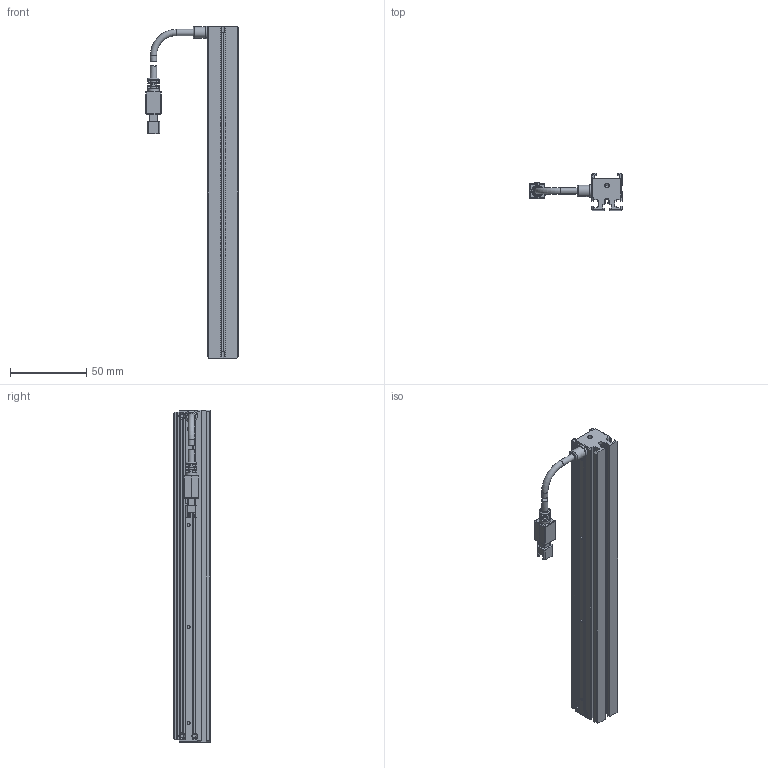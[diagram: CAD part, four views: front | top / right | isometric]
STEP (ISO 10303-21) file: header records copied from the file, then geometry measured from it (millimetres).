
FILE_DESCRIPTION (( 'STEP AP203' ), '1' );
FILE_NAME ('OPT-ILI21820-IR-V1.0尨砩芞.STEP', '2025-01-18T07:57:02', ( '' ), ( '' ), 'SwSTEP 2.0', 'SolidWorks 2016', '' );
FILE_SCHEMA (( 'CONFIG_CONTROL_DESIGN' ));
Length unit declared in the file: millimetre
Products named in the file (1): OPT-ILI21820-IR-V1.0尨砩芞
Bounding box: 60.6 x 24 x 218 mm (x, y, z)
Volume: 78584.5 mm3; surface area: 38538.5 mm2
Topology: 5 solids, 13 shells, 574 faces, 1506 edges, 970 vertices
Faces by surface type: plane 383, cylinder 133, cone 28, bspline 20, torus 10
Full cylindrical faces by diameter (mm): 1.1 x2, 1.4 x2, 1.6 x7, 2 x15, 2.4 x7, 2.5 x2, 3 x2, 3.5 x1, 4.1 x3, 7.5 x2, 8 x1
Entity records: 17649 total; most frequent: CARTESIAN_POINT 4089, ORIENTED_EDGE 2786, DIRECTION 2686, EDGE_CURVE 1393, LINE 942, VECTOR 942, VERTEX_POINT 931, AXIS2_PLACEMENT_3D 872
